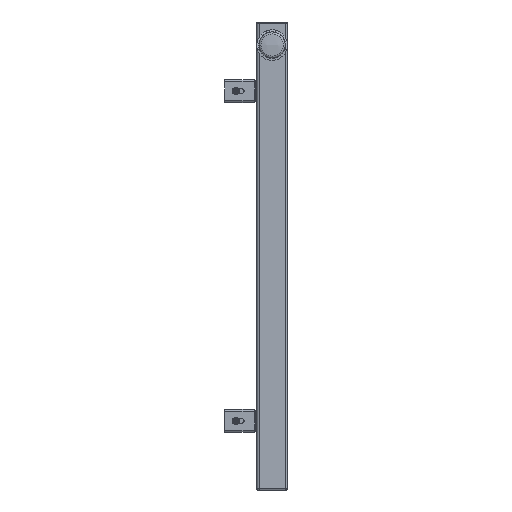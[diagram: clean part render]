
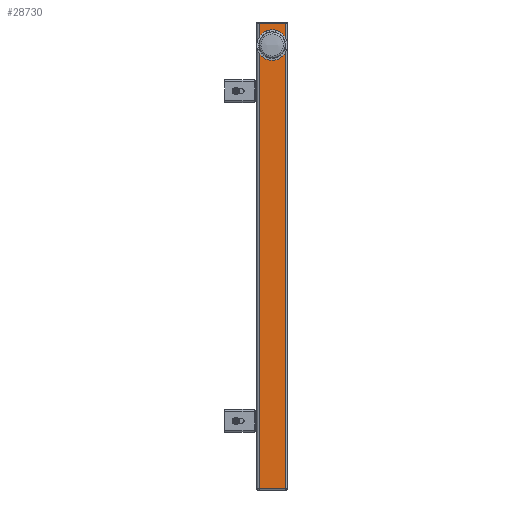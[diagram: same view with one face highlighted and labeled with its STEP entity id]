
A CAD part, left-side view. The second image highlights one B-rep face of the part: STEP entity #28730.
In plain terms, the highlighted planar face has unit normal (-1, 0, 0).
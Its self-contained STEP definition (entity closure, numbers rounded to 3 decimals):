
#28107=CARTESIAN_POINT('',(-40.,-17.0,1.5));
#28108=VERTEX_POINT('',#28107);
#28151=CARTESIAN_POINT('',(-40.,17.0,1.5));
#28152=VERTEX_POINT('',#28151);
#28169=CARTESIAN_POINT('',(-40.,-17.0,1.5));
#28170=DIRECTION('',(0.0,1.0,0.0));
#28171=VECTOR('',#28170,34.0);
#28172=LINE('',#28169,#28171);
#28173=EDGE_CURVE('',#28108,#28152,#28172,.T.);
#28677=CARTESIAN_POINT('',(-40.,17.0,608.5));
#28678=VERTEX_POINT('',#28677);
#28679=CARTESIAN_POINT('',(-40.,17.0,1.5));
#28680=DIRECTION('',(0.0,0.0,1.0));
#28681=VECTOR('',#28680,607.0);
#28682=LINE('',#28679,#28681);
#28683=EDGE_CURVE('',#28152,#28678,#28682,.T.);
#28696=CARTESIAN_POINT('',(-40.,-17.0,0.0));
#28697=DIRECTION('',(-1.0,0.0,0.0));
#28698=DIRECTION('',(0.0,0.0,1.0));
#28699=AXIS2_PLACEMENT_3D('',#28696,#28697,#28698);
#28700=PLANE('',#28699);
#28701=ORIENTED_EDGE('',*,*,#28173,.F.);
#28702=CARTESIAN_POINT('',(-40.,-17.0,608.5));
#28703=VERTEX_POINT('',#28702);
#28704=CARTESIAN_POINT('',(-40.,-17.0,1.5));
#28705=DIRECTION('',(0.0,0.0,1.0));
#28706=VECTOR('',#28705,607.0);
#28707=LINE('',#28704,#28706);
#28708=EDGE_CURVE('',#28108,#28703,#28707,.T.);
#28709=ORIENTED_EDGE('',*,*,#28708,.T.);
#28710=CARTESIAN_POINT('',(-40.,17.,608.5));
#28711=DIRECTION('',(0.0,-1.0,0.0));
#28712=VECTOR('',#28711,34.0);
#28713=LINE('',#28710,#28712);
#28714=EDGE_CURVE('',#28678,#28703,#28713,.T.);
#28715=ORIENTED_EDGE('',*,*,#28714,.F.);
#28716=ORIENTED_EDGE('',*,*,#28683,.F.);
#28717=EDGE_LOOP('',(#28701,#28709,#28715,#28716));
#28718=FACE_OUTER_BOUND('',#28717,.T.);
#28719=CARTESIAN_POINT('',(-40.,0.,595.0));
#28720=VERTEX_POINT('',#28719);
#28721=CARTESIAN_POINT('',(-40.,0.0,580.0));
#28722=DIRECTION('',(1.0,0.0,0.0));
#28723=DIRECTION('',(0.0,0.0,-1.0));
#28724=AXIS2_PLACEMENT_3D('',#28721,#28722,#28723);
#28725=CIRCLE('',#28724,15.0);
#28726=EDGE_CURVE('',#28720,#28720,#28725,.T.);
#28727=ORIENTED_EDGE('',*,*,#28726,.T.);
#28728=EDGE_LOOP('',(#28727));
#28729=FACE_BOUND('',#28728,.T.);
#28730=ADVANCED_FACE('',(#28718,#28729),#28700,.T.);
